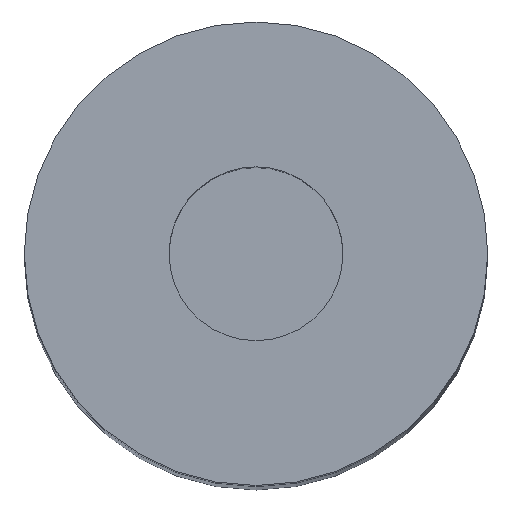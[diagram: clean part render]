
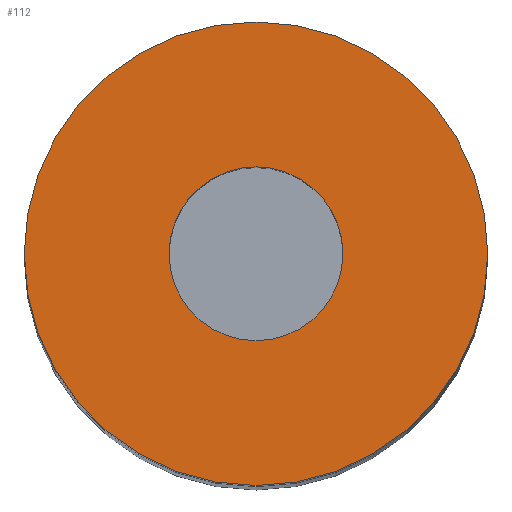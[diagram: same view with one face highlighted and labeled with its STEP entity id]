
A CAD part, top view. The second image highlights one B-rep face of the part: STEP entity #112.
In plain terms, the highlighted planar face has unit normal (0, 0, 1).
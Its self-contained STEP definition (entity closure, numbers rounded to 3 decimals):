
#99=PLANE('',#310);
#104=FACE_BOUND('',#147,.T.);
#105=FACE_BOUND('',#148,.T.);
#112=ADVANCED_FACE('',(#104,#105),#99,.T.);
#147=EDGE_LOOP('',(#191,#192));
#148=EDGE_LOOP('',(#193,#194));
#163=CIRCLE('',#302,3.);
#166=CIRCLE('',#306,3.);
#167=CIRCLE('',#308,8.);
#168=CIRCLE('',#309,8.);
#191=ORIENTED_EDGE('',*,*,#263,.F.);
#192=ORIENTED_EDGE('',*,*,#264,.F.);
#193=ORIENTED_EDGE('',*,*,#262,.T.);
#194=ORIENTED_EDGE('',*,*,#258,.T.);
#240=VERTEX_POINT('',#420);
#241=VERTEX_POINT('',#422);
#243=VERTEX_POINT('',#431);
#244=VERTEX_POINT('',#432);
#258=EDGE_CURVE('',#241,#240,#163,.T.);
#262=EDGE_CURVE('',#240,#241,#166,.T.);
#263=EDGE_CURVE('',#243,#244,#167,.T.);
#264=EDGE_CURVE('',#244,#243,#168,.T.);
#302=AXIS2_PLACEMENT_3D('',#421,#340,#341);
#306=AXIS2_PLACEMENT_3D('',#428,#349,#350);
#308=AXIS2_PLACEMENT_3D('',#430,#353,#354);
#309=AXIS2_PLACEMENT_3D('',#433,#355,#356);
#310=AXIS2_PLACEMENT_3D('',#434,#357,#358);
#340=DIRECTION('',(0.,0.,-1.));
#341=DIRECTION('',(1.,0.,0.));
#349=DIRECTION('',(0.,0.,-1.));
#350=DIRECTION('',(-1.,0.,0.));
#353=DIRECTION('',(0.,0.,-1.));
#354=DIRECTION('',(1.,0.,0.));
#355=DIRECTION('',(0.,0.,-1.));
#356=DIRECTION('',(-1.,0.,0.));
#357=DIRECTION('',(0.,0.,1.));
#358=DIRECTION('',(-1.,0.,0.));
#420=CARTESIAN_POINT('',(0.,3.,0.));
#421=CARTESIAN_POINT('',(0.,0.,0.));
#422=CARTESIAN_POINT('',(0.,-3.,0.));
#428=CARTESIAN_POINT('',(0.,0.,0.));
#430=CARTESIAN_POINT('',(0.,0.,0.));
#431=CARTESIAN_POINT('',(0.,-8.,0.));
#432=CARTESIAN_POINT('',(0.,8.,0.));
#433=CARTESIAN_POINT('',(0.,0.,0.));
#434=CARTESIAN_POINT('',(0.,0.,0.));
